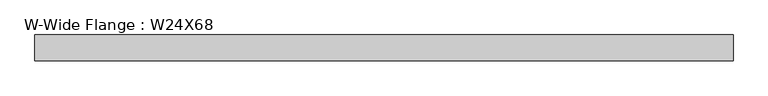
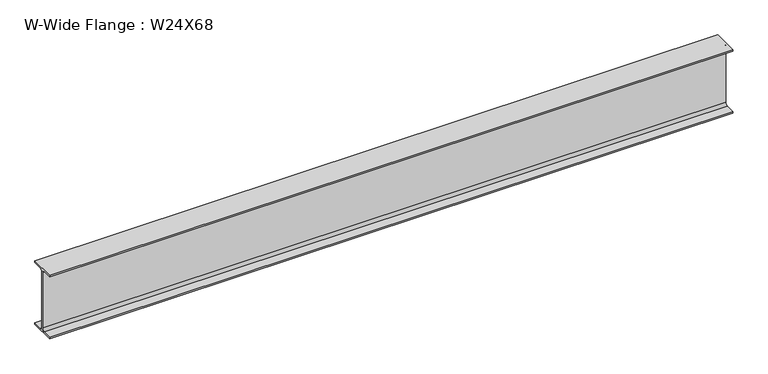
"""IFC4 building model written with IfcOpenShell, lengths in millimetres: beam geometry, W-Wide Flange : W24X68."""

import ifcopenshell
import ifcopenshell.guid

model = None  # the IFC model being written
_history = None  # IfcOwnerHistory: only IFC2X3 demands one
_inside = {}  # id of a spatial element -> (the spatial element, [elements in it])
_under = {}  # id of a project, library or spatial element -> (it, [spatial elements below it])
_declared = {}  # id of a project -> (the project, [libraries it declares])
_typed = {}  # id of a type object -> (the type object, [elements of that type])
_made_of = {}  # id of a material, layer set ... -> (it, [elements and type objects made of it])


def new_model(schema):
    """Start an empty IFC model of exactly this schema.

    Asked for "IFC4X3", IfcOpenShell would pick the latest addendum, in which some entities
    have other attributes; the version numbers below select the first issue.
    IFC2X3 requires an IfcOwnerHistory on every rooted entity: one is made here for all.
    """
    global model, _history
    if schema == "IFC4X3":
        model = ifcopenshell.file(schema_version=(4, 3, 0, 0))
    else:
        model = ifcopenshell.file(schema=schema)
    _inside.clear()
    _under.clear()
    _declared.clear()
    _typed.clear()
    _made_of.clear()
    _history = None
    if model.schema == "IFC2X3":
        org = make("IfcOrganization", Name="unknown")
        user = make(
            "IfcPersonAndOrganization",
            ThePerson=make("IfcPerson", FamilyName="unknown"),
            TheOrganization=org,
        )
        app = make(
            "IfcApplication",
            ApplicationDeveloper=org,
            Version="unknown",
            ApplicationFullName="unknown",
            ApplicationIdentifier="unknown",
        )
        _history = make(
            "IfcOwnerHistory",
            OwningUser=user,
            OwningApplication=app,
            ChangeAction="ADDED",
            CreationDate=0,
        )
    return model


def make(cls, **values):
    """One entity of the class cls with the attributes given. An attribute that is None is left unset."""
    return model.create_entity(
        cls, **{name: value for name, value in values.items() if value is not None}
    )


def rooted(cls, **values):
    """An entity with a GlobalId (a new one), such as an element, a storey or a relation."""
    return make(cls, GlobalId=ifcopenshell.guid.new(), OwnerHistory=_history, **values)


def si_unit(unit_type, name, prefix=None):
    """IfcSIUnit, for example si_unit("LENGTHUNIT", "METRE", prefix="MILLI")."""
    return make("IfcSIUnit", UnitType=unit_type, Prefix=prefix, Name=name)


def assignment(units):
    """IfcUnitAssignment: the units of a project."""
    return None if units is None else make("IfcUnitAssignment", Units=units)


def point(xyz):
    """IfcCartesianPoint."""
    return None if xyz is None else make("IfcCartesianPoint", Coordinates=xyz)


def direction(xyz):
    """IfcDirection."""
    return None if xyz is None else make("IfcDirection", DirectionRatios=xyz)


def frame(location, z_axis=None, x_axis=None):
    """IfcAxis2Placement3D, a coordinate frame: its origin and axes. An axis left out is left unset."""
    return make(
        "IfcAxis2Placement3D",
        Location=point(location),
        Axis=direction(z_axis),
        RefDirection=direction(x_axis),
    )


def frame_2d(location, x_axis=None):
    """IfcAxis2Placement2D, a coordinate frame in the plane: its origin and x axis."""
    return make(
        "IfcAxis2Placement2D", Location=point(location), RefDirection=direction(x_axis)
    )


def origin():
    """The frame at (0, 0, 0) with its axes left unset."""
    return frame((0.0, 0.0, 0.0))


def place(relative_to, where):
    """IfcLocalPlacement: puts the frame where relative to a parent placement (None: the world)."""
    return make(
        "IfcLocalPlacement", PlacementRelTo=relative_to, RelativePlacement=where
    )


def context(
    kind, dimensions, precision=None, world=None, true_north=None, identifier=None
):
    """IfcGeometricRepresentationContext, for example the 3D "Model" context."""
    return make(
        "IfcGeometricRepresentationContext",
        ContextIdentifier=identifier,
        ContextType=kind,
        CoordinateSpaceDimension=dimensions,
        Precision=precision,
        WorldCoordinateSystem=world,
        TrueNorth=true_north,
    )


def project(units=None, contexts=None):
    """IfcProject with its units and contexts."""
    return rooted(
        "IfcProject",
        Name="project",
        RepresentationContexts=contexts,
        UnitsInContext=assignment(units),
    )


def spatial(cls, under=None, at=None, **own):
    """A site, building, storey or space (cls), placed at a placement, below another one or the project."""
    s = rooted(cls, ObjectPlacement=at, **own)
    if under is not None:
        _under.setdefault(under.id(), (under, []))[1].append(s)
    return s


def polyline(points):
    """IfcPolyline through the points."""
    return make("IfcPolyline", Points=[point(p) for p in points])


def circle_curve(where, radius):
    """IfcCircle in the frame where."""
    return make("IfcCircle", Position=where, Radius=radius)


def trimmed(basis, trim1, trim2, sense, master):
    """IfcTrimmedCurve: the piece of a basis curve between two trims."""
    return make(
        "IfcTrimmedCurve",
        BasisCurve=basis,
        Trim1=trim1,
        Trim2=trim2,
        SenseAgreement=sense,
        MasterRepresentation=master,
    )


def segment(curve, same_sense, transition):
    """IfcCompositeCurveSegment."""
    return make(
        "IfcCompositeCurveSegment",
        Transition=transition,
        SameSense=same_sense,
        ParentCurve=curve,
    )


def composite_curve(segments, self_intersect=None):
    """IfcCompositeCurve: segments joined end to end."""
    return make("IfcCompositeCurve", Segments=segments, SelfIntersect=self_intersect)


def outline(outer, holes=None, kind="AREA"):
    """IfcArbitraryClosedProfileDef: a profile drawn as a closed curve; with holes, ...WithVoids."""
    if holes is None:
        return make("IfcArbitraryClosedProfileDef", ProfileType=kind, OuterCurve=outer)
    return make(
        "IfcArbitraryProfileDefWithVoids",
        ProfileType=kind,
        OuterCurve=outer,
        InnerCurves=holes,
    )


def extrude(swept, where, along, depth):
    """IfcExtrudedAreaSolid: the profile swept, set in the frame where, extruded along a direction by depth."""
    return make(
        "IfcExtrudedAreaSolid",
        SweptArea=swept,
        Position=where,
        ExtrudedDirection=direction(along),
        Depth=depth,
    )


def shape(context_of_items, identifier, shape_type, items):
    """IfcShapeRepresentation: the items that make up one representation, for example the "Body"."""
    return make(
        "IfcShapeRepresentation",
        ContextOfItems=context_of_items,
        RepresentationIdentifier=identifier,
        RepresentationType=shape_type,
        Items=items,
    )


def source(mapping_origin, context_of_items, identifier, shape_type, items):
    """IfcRepresentationMap: a shape defined once, which mapped items show again and again."""
    return make(
        "IfcRepresentationMap",
        MappingOrigin=mapping_origin,
        MappedRepresentation=shape(context_of_items, identifier, shape_type, items),
    )


def transform(
    local_origin,
    x_axis=None,
    y_axis=None,
    z_axis=None,
    scale=None,
    scale2=None,
    scale3=None,
    uniform=True,
):
    """IfcCartesianTransformationOperator3D, or its non-uniform kind. x_axis, y_axis, z_axis: its Axis1, 2, 3."""
    if uniform:
        return make(
            "IfcCartesianTransformationOperator3D",
            Axis1=direction(x_axis),
            Axis2=direction(y_axis),
            LocalOrigin=point(local_origin),
            Scale=scale,
            Axis3=direction(z_axis),
        )
    return make(
        "IfcCartesianTransformationOperator3DnonUniform",
        Axis1=direction(x_axis),
        Axis2=direction(y_axis),
        LocalOrigin=point(local_origin),
        Scale=scale,
        Axis3=direction(z_axis),
        Scale2=scale2,
        Scale3=scale3,
    )


def mapped(mapping_source, mapping_target):
    """IfcMappedItem: shows the shape of a source again, moved by a transform."""
    return make(
        "IfcMappedItem", MappingSource=mapping_source, MappingTarget=mapping_target
    )


def made_of(thing, what):
    """Note that an element or type object is made of a material, layer set ...; save() writes the relation."""
    if what is not None:
        _made_of.setdefault(what.id(), (what, []))[1].append(thing)
    return thing


def element(
    cls,
    number,
    at=None,
    inside=None,
    cuts=None,
    type_object=None,
    material=None,
    context=None,
    identifier="Body",
    shape_type=None,
    held_by="IfcProductDefinitionShape",
    body=None,
    shapes=None,
    **own,
):
    """One element of the class cls, such as IfcWall. Its Tag is "e" and its number.

    at: its placement. inside: the storey or other place that contains it. cuts: it is an
    opening in that element (IfcRelVoidsElement). A single representation is given by context,
    identifier, shape_type and body (its items); several are given by shapes. held_by: the class
    of the entity that holds the representations. save() writes the other relations.
    """
    e = rooted(cls, Tag="e%d" % number, ObjectPlacement=at, **own)
    if body is not None:
        shapes = [shape(context, identifier, shape_type, body)]
    if shapes is not None:
        e.Representation = make(held_by, Representations=shapes)
    if inside is not None:
        _inside.setdefault(inside.id(), (inside, []))[1].append(e)
    if cuts is not None:
        rooted(
            "IfcRelVoidsElement", RelatingBuildingElement=cuts, RelatedOpeningElement=e
        )
    if type_object is not None:
        _typed.setdefault(type_object.id(), (type_object, []))[1].append(e)
    return made_of(e, material)


def aggregate(whole, parts):
    """IfcRelAggregates: a whole, such as a stair, and the parts it consists of."""
    return rooted("IfcRelAggregates", RelatingObject=whole, RelatedObjects=parts)


def save(model, path):
    """Write the relations noted so far, then the file.

    IfcRelAggregates (storeys below a building ...), IfcRelContainedInSpatialStructure (elements
    in a storey), IfcRelDefinesByType, IfcRelAssociatesMaterial and IfcRelDeclares: one each for
    every whole, place, type object, material and project.
    """
    for whole, parts in _under.values():
        aggregate(whole, parts)
    for where, things in _inside.values():
        rooted(
            "IfcRelContainedInSpatialStructure",
            RelatedElements=things,
            RelatingStructure=where,
        )
    for kind, things in _typed.values():
        rooted("IfcRelDefinesByType", RelatedObjects=things, RelatingType=kind)
    for what, things in _made_of.values():
        rooted("IfcRelAssociatesMaterial", RelatedObjects=things, RelatingMaterial=what)
    for by, libraries in _declared.values():
        rooted("IfcRelDeclares", RelatingContext=by, RelatedDefinitions=libraries)
    model.write(path)


def w_wide_flange_w24x68_a7e4539d(model_context):
    return source(origin(), model_context, "Body", "SweptSolid", [
        extrude(outline(composite_curve([segment(polyline([(113.919, -286.131), (113.919, -300.99), (-113.919, -300.99), (-113.919, -286.131), (-28.5115, -286.131)]), True, "CONTINUOUS"), segment(trimmed(circle_curve(frame_2d((-28.5115, -262.89)), 23.241), [point((-28.5115, -286.131))], [point((-5.2705, -262.89))], True, "CARTESIAN"), True, "CONTINUOUS"), segment(polyline([(-5.2705, -262.89), (-5.2705, 262.89)]), True, "CONTINUOUS"), segment(trimmed(circle_curve(frame_2d((-28.5115, 262.89)), 23.241), [point((-5.2705, 262.89))], [point((-28.5115, 286.131))], True, "CARTESIAN"), True, "CONTINUOUS"), segment(polyline([(-28.5115, 286.131), (-113.919, 286.131), (-113.919, 300.99), (113.919, 300.99), (113.919, 286.131), (28.5115, 286.131)]), True, "CONTINUOUS"), segment(trimmed(circle_curve(frame_2d((28.5115, 262.89)), 23.241), [point((28.5115, 286.131))], [point((5.2705, 262.89))], True, "CARTESIAN"), True, "CONTINUOUS"), segment(polyline([(5.2705, 262.89), (5.2705, -262.89)]), True, "CONTINUOUS"), segment(trimmed(circle_curve(frame_2d((28.5115, -262.89)), 23.241), [point((5.2705, -262.89))], [point((28.5115, -286.131))], True, "CARTESIAN"), True, "CONTINUOUS"), segment(polyline([(28.5115, -286.131), (113.919, -286.131)]), True, "CONTINUOUS")], self_intersect=False)), frame((-3087.6875, 0.0, 0.0), z_axis=(1.0, 0.0, 0.0), x_axis=(0.0, 1.0, 0.0)), (0.0, 0.0, 1.0), 6118.5425),
    ])


if __name__ == "__main__":
    model = new_model("IFC4")
    model_context = context("Model", 3, world=origin())
    ifc_project = project(units=[si_unit("LENGTHUNIT", "METRE", prefix="MILLI")], contexts=[model_context])
    site = spatial("IfcSite", under=ifc_project)
    building = spatial("IfcBuilding", under=site)
    placement = place(None, origin())
    w_wide_flange_w24x68_shape = w_wide_flange_w24x68_a7e4539d(model_context)
    element("IfcBeam", 1, ObjectType="W-Wide Flange : W24X68", at=placement, inside=building, context=model_context, shape_type="MappedRepresentation", body=[
        mapped(w_wide_flange_w24x68_shape, transform((0.0, 0.0, 0.0), x_axis=(1.0, 0.0, 0.0), y_axis=(0.0, 1.0, 0.0), z_axis=(0.0, 0.0, 1.0))),
    ])
    save(model, "model.ifc")
